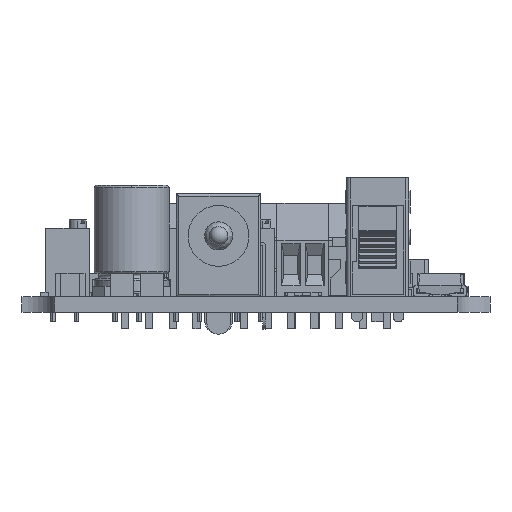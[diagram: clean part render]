
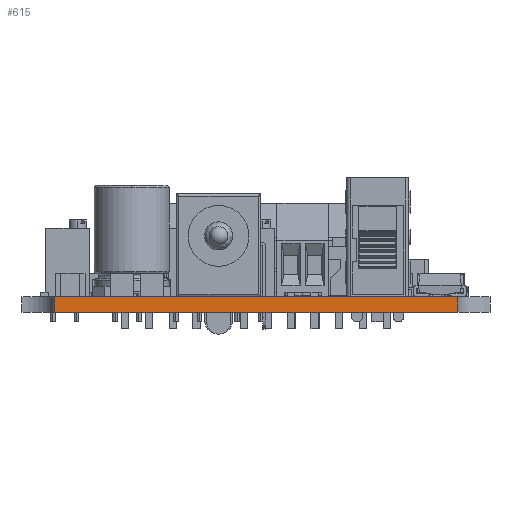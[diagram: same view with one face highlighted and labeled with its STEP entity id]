
A CAD part, left-side view. The second image highlights one B-rep face of the part: STEP entity #615.
In plain terms, the highlighted planar face has unit normal (-1, 0, 0).
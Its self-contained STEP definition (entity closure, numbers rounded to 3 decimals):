
#588 = VERTEX_POINT('',#589);
#589 = CARTESIAN_POINT('',(0.,-46.5,1.672));
#596 = EDGE_CURVE('',#597,#588,#599,.T.);
#597 = VERTEX_POINT('',#598);
#598 = CARTESIAN_POINT('',(0.,-46.5,0.));
#599 = LINE('',#600,#601);
#600 = CARTESIAN_POINT('',(0.,-46.5,0.));
#601 = VECTOR('',#602,1.);
#602 = DIRECTION('',(0.,0.,1.));
#615 = ADVANCED_FACE('',(#616),#641,.T.);
#616 = FACE_BOUND('',#617,.T.);
#617 = EDGE_LOOP('',(#618,#619,#627,#635));
#618 = ORIENTED_EDGE('',*,*,#596,.T.);
#619 = ORIENTED_EDGE('',*,*,#620,.T.);
#620 = EDGE_CURVE('',#588,#621,#623,.T.);
#621 = VERTEX_POINT('',#622);
#622 = CARTESIAN_POINT('',(0.,-3.5,1.672));
#623 = LINE('',#624,#625);
#624 = CARTESIAN_POINT('',(0.,-46.5,1.672));
#625 = VECTOR('',#626,1.);
#626 = DIRECTION('',(0.,1.,0.));
#627 = ORIENTED_EDGE('',*,*,#628,.F.);
#628 = EDGE_CURVE('',#629,#621,#631,.T.);
#629 = VERTEX_POINT('',#630);
#630 = CARTESIAN_POINT('',(0.,-3.5,0.));
#631 = LINE('',#632,#633);
#632 = CARTESIAN_POINT('',(0.,-3.5,0.));
#633 = VECTOR('',#634,1.);
#634 = DIRECTION('',(0.,0.,1.));
#635 = ORIENTED_EDGE('',*,*,#636,.F.);
#636 = EDGE_CURVE('',#597,#629,#637,.T.);
#637 = LINE('',#638,#639);
#638 = CARTESIAN_POINT('',(0.,-46.5,0.));
#639 = VECTOR('',#640,1.);
#640 = DIRECTION('',(0.,1.,0.));
#641 = PLANE('',#642);
#642 = AXIS2_PLACEMENT_3D('',#643,#644,#645);
#643 = CARTESIAN_POINT('',(0.,-46.5,0.));
#644 = DIRECTION('',(-1.,0.,0.));
#645 = DIRECTION('',(0.,1.,0.));
